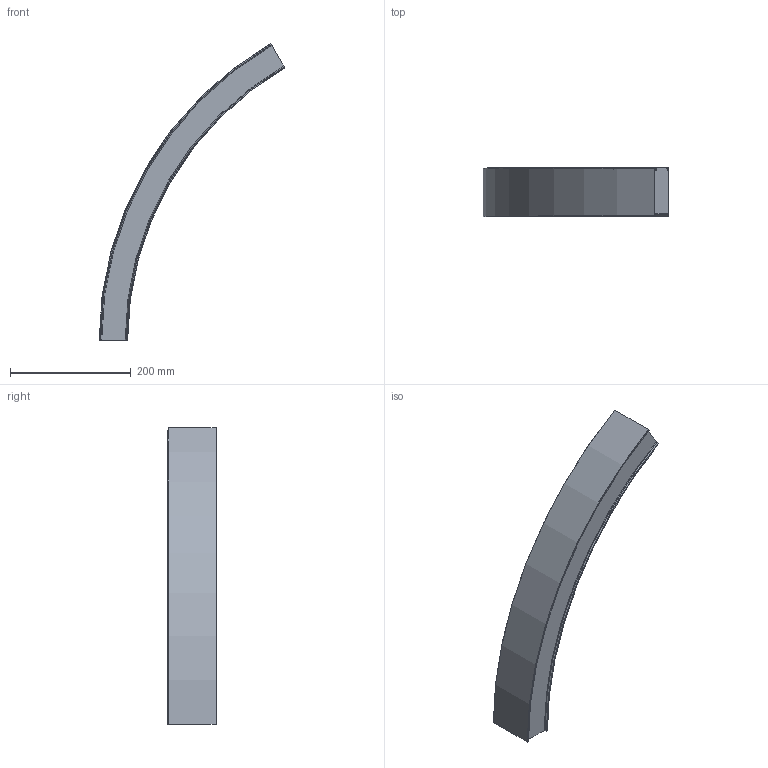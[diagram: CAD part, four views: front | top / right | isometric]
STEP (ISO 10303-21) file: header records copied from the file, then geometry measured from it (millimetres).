
FILE_DESCRIPTION (( 'STEP AP203' ), '1' );
FILE_NAME ('mLight_Swerve 47_R543.75 mm 60 deg.STEP', '2020-04-01T01:16:42', ( '' ), ( '' ), 'SwSTEP 2.0', 'SolidWorks 2017', '' );
FILE_SCHEMA (( 'CONFIG_CONTROL_DESIGN' ));
Length unit declared in the file: millimetre
Products named in the file (1): mLight_Swerve 47_R543.75 mm 60 deg
Bounding box: 307.13 x 80.63 x 491.25 mm (x, y, z)
Volume: 2052917.1 mm3; surface area: 164424.3 mm2
Topology: 1 solids, 1 shells, 46 faces, 132 edges, 88 vertices
Faces by surface type: torus 24, plane 10, cylinder 6, cone 6
Entity records: 1645 total; most frequent: DIRECTION 318, CARTESIAN_POINT 267, ORIENTED_EDGE 264, AXIS2_PLACEMENT_3D 139, EDGE_CURVE 132, CIRCLE 92, VERTEX_POINT 88, ADVANCED_FACE 46
